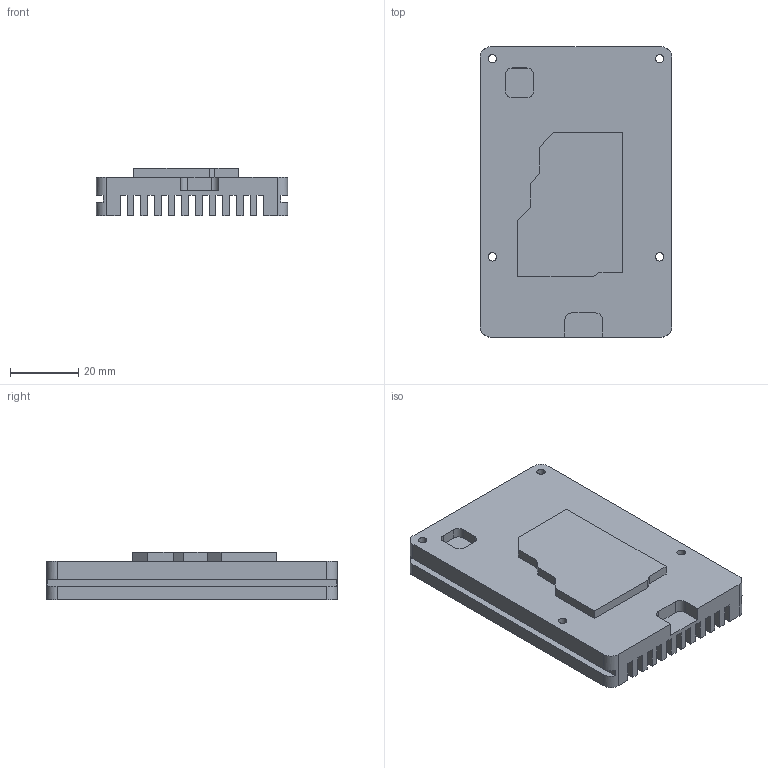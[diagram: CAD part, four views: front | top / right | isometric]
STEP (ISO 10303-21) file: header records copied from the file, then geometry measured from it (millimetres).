
FILE_DESCRIPTION((''),'2;1');
FILE_NAME('20200711-XX','2020-08-08T',('Administrator'),(''),'PRO/ENGINEER BY PARAMETRIC TECHNOLOGY CORPORATION, 2010480','PRO/ENGINEER BY PARAMETRIC TECHNOLOGY CORPORATION, 2010480','');
FILE_SCHEMA(('CONFIG_CONTROL_DESIGN'));
Length unit declared in the file: millimetre
Products named in the file (1): 20200711-XX
Bounding box: 56 x 85 x 14 mm (x, y, z)
Volume: 44214.8 mm3; surface area: 25072.8 mm2
Topology: 1 solids, 1 shells, 97 faces, 279 edges, 186 vertices
Faces by surface type: plane 79, cylinder 18
Entity records: 3211 total; most frequent: CARTESIAN_POINT 562, ORIENTED_EDGE 558, DIRECTION 517, EDGE_CURVE 279, VECTOR 235, LINE 235, VERTEX_POINT 186, AXIS2_PLACEMENT_3D 141
